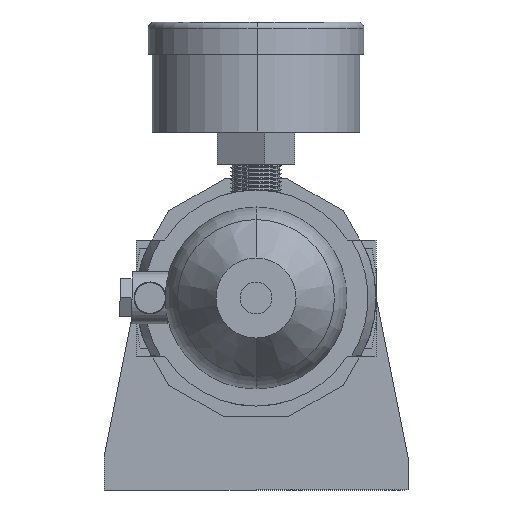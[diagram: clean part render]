
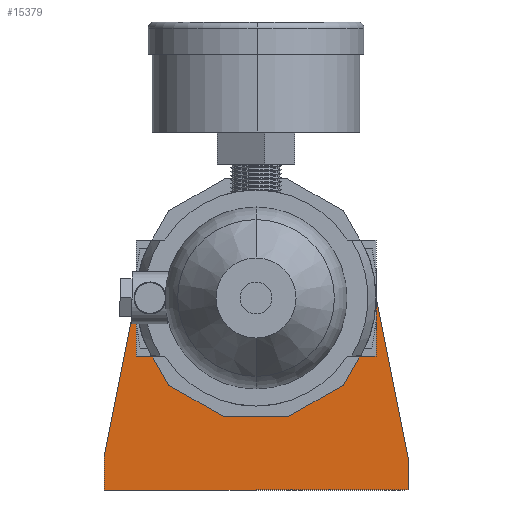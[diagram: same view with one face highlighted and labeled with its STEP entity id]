
A CAD part, front view. The second image highlights one B-rep face of the part: STEP entity #15379.
In plain terms, the highlighted planar face has unit normal (0, -1, 0).
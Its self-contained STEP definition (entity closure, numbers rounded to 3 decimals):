
#28 = ORIENTED_EDGE ( 'NONE', *, *, #12735, .F. ) ;
#168 = ORIENTED_EDGE ( 'NONE', *, *, #2567, .T. ) ;
#213 = DIRECTION ( 'NONE',  ( 0.194, 0., 0.981 ) ) ;
#498 = CARTESIAN_POINT ( 'NONE',  ( -38., 0., -48. ) ) ;
#648 = DIRECTION ( 'NONE',  ( 0.194, 0., -0.981 ) ) ;
#727 = CARTESIAN_POINT ( 'NONE',  ( 0., 0., -24. ) ) ;
#1444 = EDGE_CURVE ( 'NONE', #19010, #6331, #13387, .T. ) ;
#1549 = CARTESIAN_POINT ( 'NONE',  ( 38., 0., -48. ) ) ;
#1779 = DIRECTION ( 'NONE',  ( 0., 1., 0. ) ) ;
#2120 = ORIENTED_EDGE ( 'NONE', *, *, #3571, .F. ) ;
#2529 = ORIENTED_EDGE ( 'NONE', *, *, #12389, .F. ) ;
#2567 = EDGE_CURVE ( 'NONE', #13378, #3517, #17633, .T. ) ;
#2666 = EDGE_CURVE ( 'NONE', #6331, #21364, #24527, .T. ) ;
#3517 = VERTEX_POINT ( 'NONE', #13148 ) ;
#3520 = DIRECTION ( 'NONE',  ( 0., 0., 1. ) ) ;
#3571 = EDGE_CURVE ( 'NONE', #21364, #25659, #27082, .T. ) ;
#4154 = DIRECTION ( 'NONE',  ( 0., 0., 1. ) ) ;
#4908 = VERTEX_POINT ( 'NONE', #1549 ) ;
#5064 = ORIENTED_EDGE ( 'NONE', *, *, #9459, .T. ) ;
#5325 = ORIENTED_EDGE ( 'NONE', *, *, #24285, .F. ) ;
#5349 = CARTESIAN_POINT ( 'NONE',  ( -28.937, 0., 5.734 ) ) ;
#5376 = ORIENTED_EDGE ( 'NONE', *, *, #1444, .F. ) ;
#6331 = VERTEX_POINT ( 'NONE', #5349 ) ;
#6403 = LINE ( 'NONE', #13895, #26861 ) ;
#7206 = EDGE_LOOP ( 'NONE', ( #5064, #168 ) ) ;
#7405 = LINE ( 'NONE', #17404, #20292 ) ;
#7773 = CARTESIAN_POINT ( 'NONE',  ( 0., 0., 0. ) ) ;
#7912 = ORIENTED_EDGE ( 'NONE', *, *, #2666, .F. ) ;
#8184 = DIRECTION ( 'NONE',  ( 0., 0., 1. ) ) ;
#8602 = CARTESIAN_POINT ( 'NONE',  ( -38., 0., -48. ) ) ;
#8703 = AXIS2_PLACEMENT_3D ( 'NONE', #27269, #16896, #8184 ) ;
#8931 = DIRECTION ( 'NONE',  ( 0., 0., -1. ) ) ;
#9459 = EDGE_CURVE ( 'NONE', #3517, #13378, #26046, .T. ) ;
#9905 = DIRECTION ( 'NONE',  ( 0., 1., 0. ) ) ;
#10362 = VECTOR ( 'NONE', #17057, 1000. ) ;
#12239 = AXIS2_PLACEMENT_3D ( 'NONE', #26715, #1779, #12244 ) ;
#12244 = DIRECTION ( 'NONE',  ( 0., 0., 1. ) ) ;
#12377 = LINE ( 'NONE', #8602, #10362 ) ;
#12389 = EDGE_CURVE ( 'NONE', #23111, #19010, #12377, .T. ) ;
#12735 = EDGE_CURVE ( 'NONE', #4908, #23111, #6403, .T. ) ;
#13148 = CARTESIAN_POINT ( 'NONE',  ( 0., 0., 24. ) ) ;
#13231 = AXIS2_PLACEMENT_3D ( 'NONE', #7773, #9905, #3520 ) ;
#13337 = CARTESIAN_POINT ( 'NONE',  ( 38., 0., -40. ) ) ;
#13378 = VERTEX_POINT ( 'NONE', #727 ) ;
#13387 = LINE ( 'NONE', #21218, #20975 ) ;
#13566 = CARTESIAN_POINT ( 'NONE',  ( -38., 0., -40. ) ) ;
#13895 = CARTESIAN_POINT ( 'NONE',  ( -38., 0., -48. ) ) ;
#14717 = CARTESIAN_POINT ( 'NONE',  ( 38., 0., -40. ) ) ;
#15379 = ADVANCED_FACE ( 'NONE', ( #21231, #21540 ), #25011, .F. ) ;
#16856 = CARTESIAN_POINT ( 'NONE',  ( 28.937, 0., 5.734 ) ) ;
#16872 = CARTESIAN_POINT ( 'NONE',  ( 0., 0., 0. ) ) ;
#16896 = DIRECTION ( 'NONE',  ( 0., 1., 0. ) ) ;
#17057 = DIRECTION ( 'NONE',  ( 0., 0., 1. ) ) ;
#17404 = CARTESIAN_POINT ( 'NONE',  ( 38., 0., -48. ) ) ;
#17633 = CIRCLE ( 'NONE', #12239, 24. ) ;
#19010 = VERTEX_POINT ( 'NONE', #13566 ) ;
#20292 = VECTOR ( 'NONE', #8931, 1000. ) ;
#20844 = DIRECTION ( 'NONE',  ( 0., 1., 0. ) ) ;
#20975 = VECTOR ( 'NONE', #213, 1000. ) ;
#21218 = CARTESIAN_POINT ( 'NONE',  ( -38., 0., -40. ) ) ;
#21231 = FACE_BOUND ( 'NONE', #7206, .T. ) ;
#21364 = VERTEX_POINT ( 'NONE', #16856 ) ;
#21534 = VECTOR ( 'NONE', #648, 1000. ) ;
#21540 = FACE_OUTER_BOUND ( 'NONE', #24989, .T. ) ;
#22168 = AXIS2_PLACEMENT_3D ( 'NONE', #16872, #20844, #4154 ) ;
#23111 = VERTEX_POINT ( 'NONE', #498 ) ;
#24285 = EDGE_CURVE ( 'NONE', #25659, #4908, #7405, .T. ) ;
#24527 = CIRCLE ( 'NONE', #22168, 29.5 ) ;
#24989 = EDGE_LOOP ( 'NONE', ( #5376, #2529, #28, #5325, #2120, #7912 ) ) ;
#25011 = PLANE ( 'NONE',  #8703 ) ;
#25659 = VERTEX_POINT ( 'NONE', #14717 ) ;
#26046 = CIRCLE ( 'NONE', #13231, 24. ) ;
#26398 = DIRECTION ( 'NONE',  ( -1., 0., 0. ) ) ;
#26715 = CARTESIAN_POINT ( 'NONE',  ( 0., 0., 0. ) ) ;
#26861 = VECTOR ( 'NONE', #26398, 1000. ) ;
#27082 = LINE ( 'NONE', #13337, #21534 ) ;
#27269 = CARTESIAN_POINT ( 'NONE',  ( 0., 0., 0. ) ) ;
